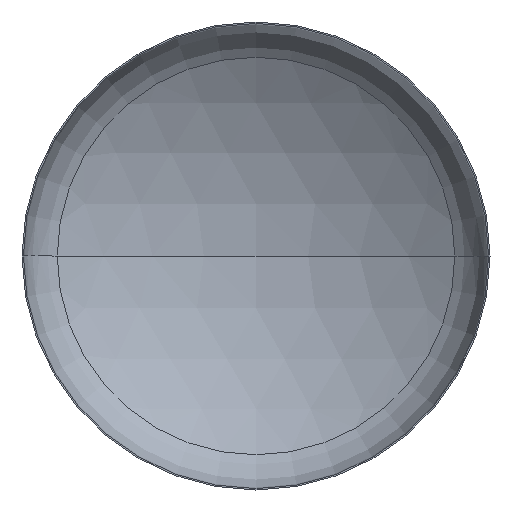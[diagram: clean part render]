
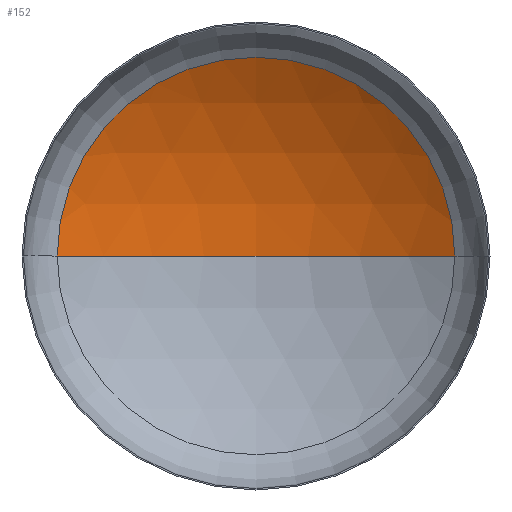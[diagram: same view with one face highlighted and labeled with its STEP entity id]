
A CAD part, front view. The second image highlights one B-rep face of the part: STEP entity #152.
In plain terms, the highlighted spherical face has radius 4000 mm.
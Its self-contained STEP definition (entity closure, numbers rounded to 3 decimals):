
#7 = DIRECTION ( 'NONE',  ( 0., -1., 0. ) ) ;
#9 = EDGE_LOOP ( 'NONE', ( #30, #19, #92 ) ) ;
#10 = VERTEX_POINT ( 'NONE', #362 ) ;
#19 = ORIENTED_EDGE ( 'NONE', *, *, #156, .T. ) ;
#30 = ORIENTED_EDGE ( 'NONE', *, *, #167, .F. ) ;
#44 = VERTEX_POINT ( 'NONE', #239 ) ;
#70 = AXIS2_PLACEMENT_3D ( 'NONE', #195, #196, #209 ) ;
#73 = AXIS2_PLACEMENT_3D ( 'NONE', #306, #180, #216 ) ;
#76 = AXIS2_PLACEMENT_3D ( 'NONE', #169, #315, #341 ) ;
#86 = AXIS2_PLACEMENT_3D ( 'NONE', #268, #7, #337 ) ;
#92 = ORIENTED_EDGE ( 'NONE', *, *, #144, .T. ) ;
#106 = SPHERICAL_SURFACE ( 'NONE', #73, 4000. ) ;
#108 = VERTEX_POINT ( 'NONE', #224 ) ;
#144 = EDGE_CURVE ( 'NONE', #44, #10, #322, .T. ) ;
#152 = ADVANCED_FACE ( 'NONE', ( #255 ), #106, .F. ) ;
#156 = EDGE_CURVE ( 'NONE', #108, #44, #375, .T. ) ;
#167 = EDGE_CURVE ( 'NONE', #108, #10, #313, .T. ) ;
#169 = CARTESIAN_POINT ( 'NONE',  ( 0., -2692.092, 0. ) ) ;
#180 = DIRECTION ( 'NONE',  ( 0., 0., -1. ) ) ;
#195 = CARTESIAN_POINT ( 'NONE',  ( 0., -2692.092, 0. ) ) ;
#196 = DIRECTION ( 'NONE',  ( 0., 0., 1. ) ) ;
#209 = DIRECTION ( 'NONE',  ( 1., 0., 0. ) ) ;
#216 = DIRECTION ( 'NONE',  ( -1., 0., 0. ) ) ;
#224 = CARTESIAN_POINT ( 'NONE',  ( 0., 1307.908, 0. ) ) ;
#239 = CARTESIAN_POINT ( 'NONE',  ( 2123.839, 697.496, 0. ) ) ;
#255 = FACE_OUTER_BOUND ( 'NONE', #9, .T. ) ;
#268 = CARTESIAN_POINT ( 'NONE',  ( 0., 697.496, 0. ) ) ;
#306 = CARTESIAN_POINT ( 'NONE',  ( 0., -2692.092, 0. ) ) ;
#313 = CIRCLE ( 'NONE', #70, 4000. ) ;
#315 = DIRECTION ( 'NONE',  ( 0., 0., -1. ) ) ;
#322 = CIRCLE ( 'NONE', #86, 2123.839 ) ;
#337 = DIRECTION ( 'NONE',  ( 1., 0., 0. ) ) ;
#341 = DIRECTION ( 'NONE',  ( -1., 0., 0. ) ) ;
#362 = CARTESIAN_POINT ( 'NONE',  ( -2123.839, 697.496, 0. ) ) ;
#375 = CIRCLE ( 'NONE', #76, 4000. ) ;
